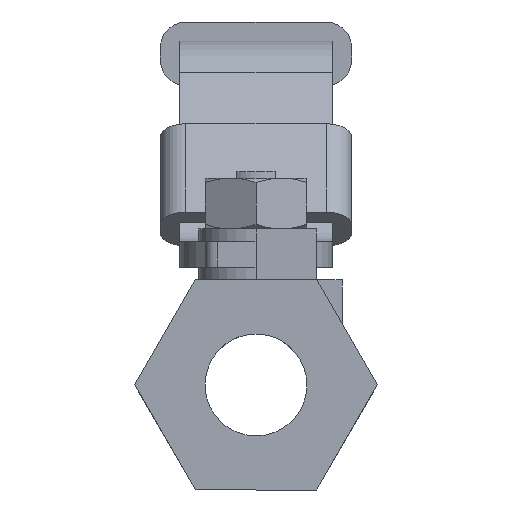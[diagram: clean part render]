
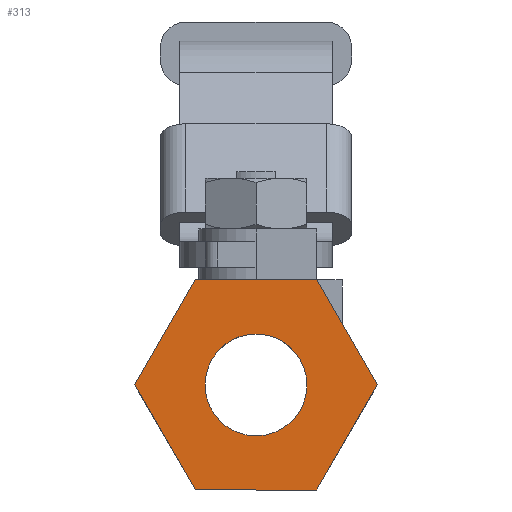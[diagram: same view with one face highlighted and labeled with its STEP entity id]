
A CAD part, left-side view. The second image highlights one B-rep face of the part: STEP entity #313.
In plain terms, the highlighted planar face has unit normal (-1, 0, 0) as drawn and (1, 0, 0) by its records, which use the part's own axes.
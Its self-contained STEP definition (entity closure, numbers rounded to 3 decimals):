
#313=ADVANCED_FACE('',(#1522,#1523),#1521,.F.);
#1521=PLANE('',#2343);
#1522=FACE_OUTER_BOUND('',#2344,.T.);
#1523=FACE_BOUND('',#2345,.T.);
#2340=CARTESIAN_POINT('',(39.,-3.182,-1.65));
#2341=DIRECTION('',(-1.,0.,0.));
#2342=DIRECTION('',(0.,0.,1.));
#2343=AXIS2_PLACEMENT_3D('',#2340,#2341,#2342);
#2344=EDGE_LOOP('',(#3022,#3023,#3024,#3025,#3026,#3027));
#2345=EDGE_LOOP('',(#3028,#3029,#3030));
#3022=ORIENTED_EDGE('',*,*,#3410,.T.);
#3023=ORIENTED_EDGE('',*,*,#3414,.T.);
#3024=ORIENTED_EDGE('',*,*,#3417,.T.);
#3025=ORIENTED_EDGE('',*,*,#3424,.T.);
#3026=ORIENTED_EDGE('',*,*,#3429,.T.);
#3027=ORIENTED_EDGE('',*,*,#3431,.T.);
#3028=ORIENTED_EDGE('',*,*,#3432,.F.);
#3029=ORIENTED_EDGE('',*,*,#3433,.F.);
#3030=ORIENTED_EDGE('',*,*,#3434,.F.);
#3410=EDGE_CURVE('',#5466,#5459,#5467,.T.);
#3414=EDGE_CURVE('',#5459,#5486,#5493,.T.);
#3417=EDGE_CURVE('',#5486,#5505,#5512,.T.);
#3424=EDGE_CURVE('',#5505,#5549,#5556,.T.);
#3429=EDGE_CURVE('',#5549,#5580,#5587,.T.);
#3431=EDGE_CURVE('',#5580,#5466,#5599,.T.);
#3432=EDGE_CURVE('',#5605,#5606,#5607,.T.);
#3433=EDGE_CURVE('',#5613,#5605,#5614,.T.);
#3434=EDGE_CURVE('',#5606,#5613,#5620,.T.);
#5459=VERTEX_POINT('',#6955);
#5466=VERTEX_POINT('',#6959);
#5467=LINE('',#6960,#6961);
#5486=VERTEX_POINT('',#6970);
#5493=LINE('',#6974,#6975);
#5505=VERTEX_POINT('',#6980);
#5512=LINE('',#6984,#6985);
#5549=VERTEX_POINT('',#7003);
#5556=LINE('',#7007,#7008);
#5580=VERTEX_POINT('',#7021);
#5587=LINE('',#7025,#7026);
#5599=LINE('',#7031,#7032);
#5605=VERTEX_POINT('',#7034);
#5606=VERTEX_POINT('',#7035);
#5607=CIRCLE('',#7039,4.);
#5613=VERTEX_POINT('',#7040);
#5614=CIRCLE('',#7044,4.);
#5620=CIRCLE('',#7048,4.);
#6955=CARTESIAN_POINT('',(39.,13.013,0.));
#6959=CARTESIAN_POINT('',(39.,3.487,0.));
#6960=CARTESIAN_POINT('',(39.,3.487,0.));
#6961=VECTOR('',#6962,9.526);
#6962=DIRECTION('',(0.,1.,0.));
#6970=CARTESIAN_POINT('',(39.,17.776,8.25));
#6974=CARTESIAN_POINT('',(39.,13.013,0.));
#6975=VECTOR('',#6976,9.526);
#6976=DIRECTION('',(0.,0.5,0.866));
#6980=CARTESIAN_POINT('',(39.,13.013,16.5));
#6984=CARTESIAN_POINT('',(39.,17.776,8.25));
#6985=VECTOR('',#6986,9.526);
#6986=DIRECTION('',(0.,-0.5,0.866));
#7003=CARTESIAN_POINT('',(39.,3.487,16.5));
#7007=CARTESIAN_POINT('',(39.,13.013,16.5));
#7008=VECTOR('',#7009,9.526);
#7009=DIRECTION('',(0.,-1.,0.));
#7021=CARTESIAN_POINT('',(39.,-1.276,8.25));
#7025=CARTESIAN_POINT('',(39.,3.487,16.5));
#7026=VECTOR('',#7027,9.526);
#7027=DIRECTION('',(0.,-0.5,-0.866));
#7031=CARTESIAN_POINT('',(39.,-1.276,8.25));
#7032=VECTOR('',#7033,9.526);
#7033=DIRECTION('',(0.,0.5,-0.866));
#7034=CARTESIAN_POINT('',(39.,8.285,4.25));
#7035=CARTESIAN_POINT('',(39.,8.25,12.25));
#7036=CARTESIAN_POINT('',(39.,8.25,8.25));
#7037=DIRECTION('',(1.,0.,0.));
#7038=DIRECTION('',(0.,0.,1.));
#7039=AXIS2_PLACEMENT_3D('',#7036,#7037,#7038);
#7040=CARTESIAN_POINT('',(39.,4.431,7.06));
#7041=CARTESIAN_POINT('',(39.,8.25,8.25));
#7042=DIRECTION('',(1.,0.,0.));
#7043=DIRECTION('',(0.,0.,1.));
#7044=AXIS2_PLACEMENT_3D('',#7041,#7042,#7043);
#7045=CARTESIAN_POINT('',(39.,8.25,8.25));
#7046=DIRECTION('',(1.,0.,0.));
#7047=DIRECTION('',(0.,0.,1.));
#7048=AXIS2_PLACEMENT_3D('',#7045,#7046,#7047);
